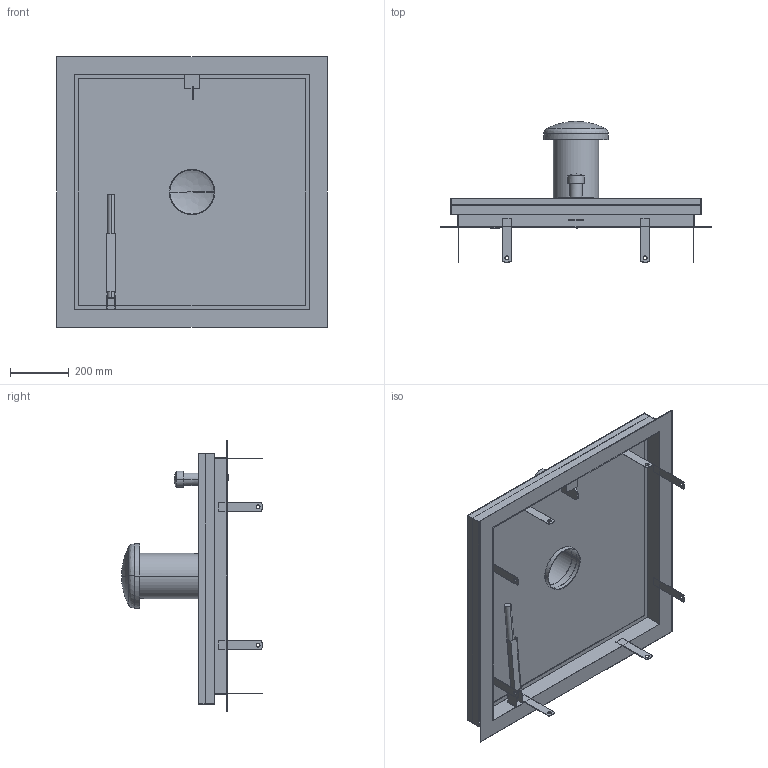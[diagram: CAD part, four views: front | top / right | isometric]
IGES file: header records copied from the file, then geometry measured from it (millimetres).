
Start section:  PTC IGES file: 52335834.igs
Global section: file name: 52335834.igs; native system: Creo Parametric by PTC Inc.; preprocessor: 2022162; author: wep; organization: Unknown; date: 20241219.073504; units: millimetre
Bounding box: 920 x 479 x 920 mm (x, y, z)
Surface area: 4601909.8 mm2 (no closed solid volume)
Topology: 0 solids, 0 shells, 757 faces, 4090 edges, 4084 vertices
Faces by surface type: bspline 425, extrusion 275, revolution 57
